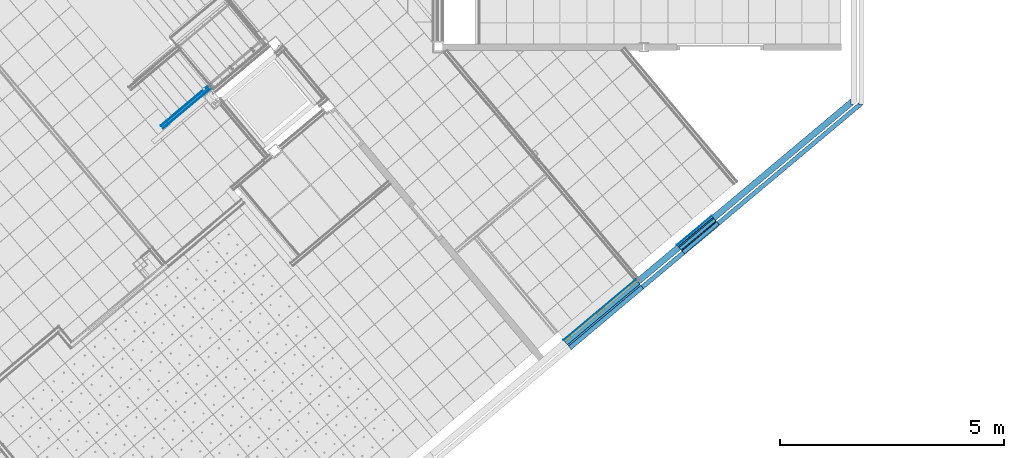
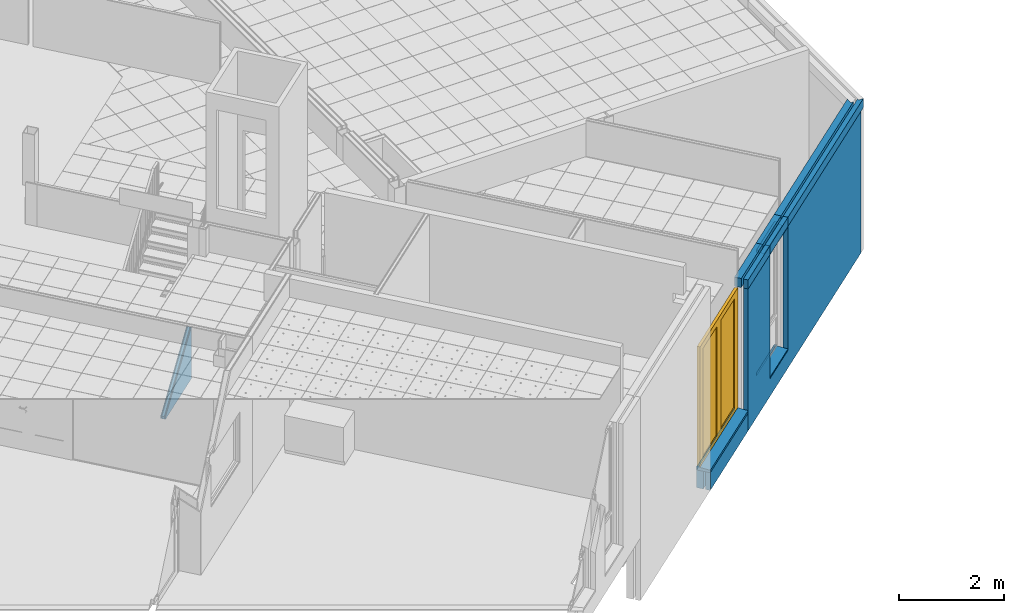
# One storey, part 68 of 338: 23 building element parts, 1 door, 2 openings, 8 elements without a shape of their own.
"""IFC2X3 building model written with IfcOpenShell, lengths in millimetres."""

import ifcopenshell
import ifcopenshell.guid

model = None  # the IFC model being written
_history = None  # IfcOwnerHistory: only IFC2X3 demands one
_inside = {}  # id of a spatial element -> (the spatial element, [elements in it])
_under = {}  # id of a project, library or spatial element -> (it, [spatial elements below it])
_declared = {}  # id of a project -> (the project, [libraries it declares])
_typed = {}  # id of a type object -> (the type object, [elements of that type])
_made_of = {}  # id of a material, layer set ... -> (it, [elements and type objects made of it])


def new_model(schema):
    """Start an empty IFC model of exactly this schema.

    Asked for "IFC4X3", IfcOpenShell would pick the latest addendum, in which some entities
    have other attributes; the version numbers below select the first issue.
    IFC2X3 requires an IfcOwnerHistory on every rooted entity: one is made here for all.
    """
    global model, _history
    if schema == "IFC4X3":
        model = ifcopenshell.file(schema_version=(4, 3, 0, 0))
    else:
        model = ifcopenshell.file(schema=schema)
    _inside.clear()
    _under.clear()
    _declared.clear()
    _typed.clear()
    _made_of.clear()
    _history = None
    if model.schema == "IFC2X3":
        org = make("IfcOrganization", Name="unknown")
        user = make(
            "IfcPersonAndOrganization",
            ThePerson=make("IfcPerson", FamilyName="unknown"),
            TheOrganization=org,
        )
        app = make(
            "IfcApplication",
            ApplicationDeveloper=org,
            Version="unknown",
            ApplicationFullName="unknown",
            ApplicationIdentifier="unknown",
        )
        _history = make(
            "IfcOwnerHistory",
            OwningUser=user,
            OwningApplication=app,
            ChangeAction="ADDED",
            CreationDate=0,
        )
    return model


def make(cls, **values):
    """One entity of the class cls with the attributes given. An attribute that is None is left unset."""
    return model.create_entity(
        cls, **{name: value for name, value in values.items() if value is not None}
    )


def entity(cls, *values):
    """Any entity or typed value of the class cls, its attributes in the order of the schema. None: left unset."""
    e = model.create_entity(cls)
    for i, value in enumerate(values):
        if value is not None:
            e[i] = value
    return e


def rooted(cls, **values):
    """An entity with a GlobalId (a new one), such as an element, a storey or a relation."""
    return make(cls, GlobalId=ifcopenshell.guid.new(), OwnerHistory=_history, **values)


def si_unit(unit_type, name, prefix=None):
    """IfcSIUnit, for example si_unit("LENGTHUNIT", "METRE", prefix="MILLI")."""
    return make("IfcSIUnit", UnitType=unit_type, Prefix=prefix, Name=name)


def converted_unit(unit_type, name, factor, base, dimensions=None, offset=None):
    """IfcConversionBasedUnit, such as the inch: factor (a typed value) times the base unit."""
    return make(
        "IfcConversionBasedUnit"
        if offset is None
        else "IfcConversionBasedUnitWithOffset",
        ConversionOffset=offset,
        Dimensions=None
        if dimensions is None
        else entity("IfcDimensionalExponents", *dimensions),
        UnitType=unit_type,
        Name=name,
        ConversionFactor=make(
            "IfcMeasureWithUnit", ValueComponent=factor, UnitComponent=base
        ),
    )


def derived_unit(unit_type, elements):
    """IfcDerivedUnit: a product of units, each with its exponent."""
    return make(
        "IfcDerivedUnit",
        Elements=[
            make("IfcDerivedUnitElement", Unit=unit, Exponent=power)
            for unit, power in elements
        ],
        UnitType=unit_type,
    )


def money_unit(currency):
    """IfcMonetaryUnit."""
    return make("IfcMonetaryUnit", Currency=currency)


def assignment(units):
    """IfcUnitAssignment: the units of a project."""
    return None if units is None else make("IfcUnitAssignment", Units=units)


def point(xyz):
    """IfcCartesianPoint."""
    return None if xyz is None else make("IfcCartesianPoint", Coordinates=xyz)


def direction(xyz):
    """IfcDirection."""
    return None if xyz is None else make("IfcDirection", DirectionRatios=xyz)


def frame(location, z_axis=None, x_axis=None):
    """IfcAxis2Placement3D, a coordinate frame: its origin and axes. An axis left out is left unset."""
    return make(
        "IfcAxis2Placement3D",
        Location=point(location),
        Axis=direction(z_axis),
        RefDirection=direction(x_axis),
    )


def origin_with_axes():
    """The frame at (0, 0, 0) with the z axis (0, 0, 1) and the x axis (1, 0, 0) written out."""
    return frame((0.0, 0.0, 0.0), z_axis=(0.0, 0.0, 1.0), x_axis=(1.0, 0.0, 0.0))


def place(relative_to, where):
    """IfcLocalPlacement: puts the frame where relative to a parent placement (None: the world)."""
    return make(
        "IfcLocalPlacement", PlacementRelTo=relative_to, RelativePlacement=where
    )


def context(
    kind, dimensions, precision=None, world=None, true_north=None, identifier=None
):
    """IfcGeometricRepresentationContext, for example the 3D "Model" context."""
    return make(
        "IfcGeometricRepresentationContext",
        ContextIdentifier=identifier,
        ContextType=kind,
        CoordinateSpaceDimension=dimensions,
        Precision=precision,
        WorldCoordinateSystem=world,
        TrueNorth=true_north,
    )


def subcontext(parent, identifier, kind, view, scale=None):
    """IfcGeometricRepresentationSubContext, for example "Body" below "Model"."""
    return make(
        "IfcGeometricRepresentationSubContext",
        ContextIdentifier=identifier,
        ContextType=kind,
        ParentContext=parent,
        TargetScale=scale,
        TargetView=view,
    )


def project(units=None, contexts=None):
    """IfcProject with its units and contexts."""
    return rooted(
        "IfcProject",
        Name="project",
        RepresentationContexts=contexts,
        UnitsInContext=assignment(units),
    )


def spatial(cls, under=None, at=None, **own):
    """A site, building, storey or space (cls), placed at a placement, below another one or the project."""
    s = rooted(cls, ObjectPlacement=at, **own)
    if under is not None:
        _under.setdefault(under.id(), (under, []))[1].append(s)
    return s


def faces_of(points, faces, orient=None, outer=None):
    """IfcFace entities. A face is a list of loops; a loop is a list of indices into points, from 0.

    orient and outer hold one flag for each loop. By default every Orientation is true, the
    first loop of a face is its IfcFaceOuterBound and the others are IfcFaceBound.
    """
    made = []
    for i, loops in enumerate(faces):
        bounds = []
        for j, loop in enumerate(loops):
            is_outer = j == 0 if outer is None else outer[i][j]
            bounds.append(
                make(
                    "IfcFaceOuterBound" if is_outer else "IfcFaceBound",
                    Bound=make("IfcPolyLoop", Polygon=[points[k] for k in loop]),
                    Orientation=True if orient is None else orient[i][j],
                )
            )
        made.append(make("IfcFace", Bounds=bounds))
    return made


def open_shell(faces, orient=None, outer=None):
    """The faces of one IfcOpenShell. surface_model builds it on its shared points."""
    return ("IfcOpenShell", faces, orient, outer)


def faceted_brep(points, faces, orient=None, outer=None, voids=None):
    """IfcFacetedBrep: a solid bounded by flat faces; with voids (closed shells), ...WithVoids."""
    shared = [point(p) for p in points]
    hull = make("IfcClosedShell", CfsFaces=faces_of(shared, faces, orient, outer))
    if voids is None:
        return make("IfcFacetedBrep", Outer=hull)
    return make(
        "IfcFacetedBrepWithVoids",
        Outer=hull,
        Voids=[
            make(cls, CfsFaces=faces_of(shared, fs, o, b)) for cls, fs, o, b in voids
        ],
    )


def surface_model(cls, points, shells):
    """IfcFaceBasedSurfaceModel or IfcShellBasedSurfaceModel (cls): surfaces that need not close."""
    shared = [point(p) for p in points]
    made = [make(c, CfsFaces=faces_of(shared, fs, o, b)) for c, fs, o, b in shells]
    if cls == "IfcFaceBasedSurfaceModel":
        return make(cls, FbsmFaces=made)
    return make(cls, SbsmBoundary=made)


def shape(context_of_items, identifier, shape_type, items):
    """IfcShapeRepresentation: the items that make up one representation, for example the "Body"."""
    return make(
        "IfcShapeRepresentation",
        ContextOfItems=context_of_items,
        RepresentationIdentifier=identifier,
        RepresentationType=shape_type,
        Items=items,
    )


def material(Name=None, Category=None):
    """IfcMaterial."""
    return make("IfcMaterial", Name=Name, Category=Category)


def made_of(thing, what):
    """Note that an element or type object is made of a material, layer set ...; save() writes the relation."""
    if what is not None:
        _made_of.setdefault(what.id(), (what, []))[1].append(thing)
    return thing


def type_object(cls, material=None, **own):
    """A type object (cls), such as IfcWallType, which elements share."""
    return made_of(rooted(cls, **own), material)


def element(
    cls,
    number,
    at=None,
    inside=None,
    cuts=None,
    type_object=None,
    material=None,
    context=None,
    identifier="Body",
    shape_type=None,
    held_by="IfcProductDefinitionShape",
    body=None,
    shapes=None,
    **own,
):
    """One element of the class cls, such as IfcWall. Its Tag is "e" and its number.

    at: its placement. inside: the storey or other place that contains it. cuts: it is an
    opening in that element (IfcRelVoidsElement). A single representation is given by context,
    identifier, shape_type and body (its items); several are given by shapes. held_by: the class
    of the entity that holds the representations. save() writes the other relations.
    """
    e = rooted(cls, Tag="e%d" % number, ObjectPlacement=at, **own)
    if body is not None:
        shapes = [shape(context, identifier, shape_type, body)]
    if shapes is not None:
        e.Representation = make(held_by, Representations=shapes)
    if inside is not None:
        _inside.setdefault(inside.id(), (inside, []))[1].append(e)
    if cuts is not None:
        rooted(
            "IfcRelVoidsElement", RelatingBuildingElement=cuts, RelatedOpeningElement=e
        )
    if type_object is not None:
        _typed.setdefault(type_object.id(), (type_object, []))[1].append(e)
    return made_of(e, material)


def fill(opening, filler):
    """IfcRelFillsElement: the door or window that sits in an opening."""
    return rooted(
        "IfcRelFillsElement",
        RelatingOpeningElement=opening,
        RelatedBuildingElement=filler,
    )


def aggregate(whole, parts):
    """IfcRelAggregates: a whole, such as a stair, and the parts it consists of."""
    return rooted("IfcRelAggregates", RelatingObject=whole, RelatedObjects=parts)


def save(model, path):
    """Write the relations noted so far, then the file.

    IfcRelAggregates (storeys below a building ...), IfcRelContainedInSpatialStructure (elements
    in a storey), IfcRelDefinesByType, IfcRelAssociatesMaterial and IfcRelDeclares: one each for
    every whole, place, type object, material and project.
    """
    for whole, parts in _under.values():
        aggregate(whole, parts)
    for where, things in _inside.values():
        rooted(
            "IfcRelContainedInSpatialStructure",
            RelatedElements=things,
            RelatingStructure=where,
        )
    for kind, things in _typed.values():
        rooted("IfcRelDefinesByType", RelatedObjects=things, RelatingType=kind)
    for what, things in _made_of.values():
        rooted("IfcRelAssociatesMaterial", RelatedObjects=things, RelatingMaterial=what)
    for by, libraries in _declared.values():
        rooted("IfcRelDeclares", RelatingContext=by, RelatedDefinitions=libraries)
    model.write(path)


model = new_model("IFC2X3")

# Units and contexts
model_context = context("Model", 3, precision=0.01, world=origin_with_axes(), true_north=direction((0.0, 1.0)))
plan_context = context("Plan", 3, precision=0.01, world=origin_with_axes(), true_north=direction((0.0, 1.0)))
body_context = subcontext(model_context, "Body", "Model", "MODEL_VIEW")
ifc_project = project(units=[si_unit("LENGTHUNIT", "METRE", prefix="MILLI"), si_unit("AREAUNIT", "SQUARE_METRE"), si_unit("VOLUMEUNIT", "CUBIC_METRE"), converted_unit("PLANEANGLEUNIT", "DEGREE", entity("IfcPlaneAngleMeasure", 0.0174532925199), si_unit("PLANEANGLEUNIT", "RADIAN"), dimensions=[0, 0, 0, 0, 0, 0, 0]), money_unit("EUR"), converted_unit("TIMEUNIT", "Year", entity("IfcTimeMeasure", 31556926.0), si_unit("TIMEUNIT", "SECOND"), dimensions=[0, 0, 1, 0, 0, 0, 0]), si_unit("MASSUNIT", "GRAM", prefix="KILO"), si_unit("THERMODYNAMICTEMPERATUREUNIT", "DEGREE_CELSIUS"), si_unit("LUMINOUSINTENSITYUNIT", "LUMEN"), si_unit("ENERGYUNIT", "JOULE", prefix="MEGA"), derived_unit("THERMALCONDUCTANCEUNIT", [(si_unit("POWERUNIT", "WATT"), 1), (si_unit("LENGTHUNIT", "METRE"), -1), (si_unit("THERMODYNAMICTEMPERATUREUNIT", "KELVIN"), -1)]), derived_unit("SPECIFICHEATCAPACITYUNIT", [(si_unit("ENERGYUNIT", "JOULE"), 1), (si_unit("MASSUNIT", "GRAM", prefix="KILO"), -1), (si_unit("THERMODYNAMICTEMPERATUREUNIT", "KELVIN"), -1)]), derived_unit("MASSDENSITYUNIT", [(si_unit("MASSUNIT", "GRAM", prefix="KILO"), 1), (si_unit("VOLUMEUNIT", "CUBIC_METRE"), -1)])], contexts=[model_context, plan_context])

# Site, building, storey
site_placement = place(None, origin_with_axes())
site = spatial("IfcSite", under=ifc_project, at=site_placement, Name="Fortuinstraat Woensdrecht", CompositionType="ELEMENT")
building_placement = place(site_placement, origin_with_axes())
building = spatial("IfcBuilding", under=site, at=building_placement, Name="IKC Fortuna", CompositionType="ELEMENT")
storey_placement = place(building_placement, origin_with_axes())
storey = spatial("IfcBuildingStorey", under=building, at=storey_placement, Name="00 begane grond", CompositionType="ELEMENT", Elevation=0.0)

# Door
door_style = type_object("IfcDoorStyle", Name="D2 25", ConstructionType="NOTDEFINED", OperationType="DOUBLE_DOOR_SINGLE_SWING", ParameterTakesPrecedence=False, Sizeable=False)
wall_2_placement = place(storey_placement, frame((28417.7522518, -4779.64560708, -485.0), z_axis=(0.0, 0.0, 1.0), x_axis=(0.766044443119, 0.642787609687, 0.0)))
opening_2_placement = place(wall_2_placement, frame((1052.9994937, 0.0, 485.0), z_axis=(0.0, 0.0, 1.0), x_axis=(1.0, 0.0, 0.0)))
door_placement = place(opening_2_placement, frame((976.999360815, 0.0, 0.0), z_axis=(0.0, 0.0, 1.0), x_axis=(-1.0, 0.0, 0.0)))
door = element("IfcDoor", 1, at=door_placement, inside=storey, type_object=door_style, Name="31_Deur_A.06a", ObjectType="DOOR", OverallHeight=2786.0, OverallWidth=2090.0, context=body_context, shape_type="SurfaceModel", body=[
    faceted_brep([(-68.0, 72.0, 0.0), (0.0, 72.0, 0.0), (0.0, 10.0, 0.0), (-68.0, 10.0, 0.0), (-68.0, 72.0, 2752.0), (0.0, 72.0, 2752.0), (0.0, 10.0, 2752.0), (-68.0, 10.0, 2752.0)], [[[0, 1, 2, 3]], [[0, 4, 5, 1]], [[1, 5, 6, 2]], [[3, 2, 6, 7]], [[4, 0, 3, 7]], [[5, 4, 7, 6]]]),
    faceted_brep([(2021.99872163, 72.0, 0.0), (2021.99872163, 72.0, 2752.0), (2021.99872163, 10.0, 2752.0), (2021.99872163, 10.0, 0.0), (1953.99872163, 72.0, 0.0), (1953.99872163, 72.0, 2752.0), (1953.99872163, 10.0, 2752.0), (1953.99872163, 10.0, 0.0)], [[[0, 1, 2, 3]], [[0, 4, 5, 1]], [[1, 5, 6, 2]], [[3, 2, 6, 7]], [[4, 0, 3, 7]], [[5, 4, 7, 6]]]),
    faceted_brep([(-68.0, 72.0, 2786.0), (-68.0, 72.0, 2752.0), (-68.0, 10.0, 2752.0), (-68.0, 10.0, 2786.0), (2021.99872163, 72.0, 2786.0), (2021.99872163, 72.0, 2752.0), (1953.99872163, 72.0, 2752.0), (0.0, 72.0, 2752.0), (0.0, 10.0, 2752.0), (1953.99872163, 10.0, 2752.0), (2021.99872163, 10.0, 2752.0), (2021.99872163, 10.0, 2786.0)], [[[0, 1, 2, 3]], [[0, 4, 5, 6, 7, 1]], [[1, 7, 8, 2]], [[3, 2, 8, 9, 10, 11]], [[4, 0, 3, 11]], [[5, 4, 11, 10]], [[6, 5, 10, 9]], [[7, 6, 9, 8]]]),
    faceted_brep([(1953.99872163, 72.0, 113.0), (1953.99872163, 10.0, 113.0), (1850.99872163, 10.0, 113.0), (1850.99872163, 72.0, 113.0), (1953.99872163, 72.0, 2649.0), (1953.99872163, 10.0, 2649.0), (1850.99872163, 10.0, 2649.0), (1850.99872163, 72.0, 2649.0)], [[[0, 1, 2, 3]], [[4, 5, 1, 0]], [[1, 5, 6, 2]], [[3, 2, 6, 7]], [[0, 3, 7, 4]], [[7, 6, 5, 4]]]),
    faceted_brep([(976.999360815, 72.0, 113.0), (976.999360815, 10.0, 113.0), (976.999360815, 10.0, 2649.0), (976.999360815, 72.0, 2649.0), (1079.99936081, 72.0, 113.0), (1079.99936081, 10.0, 113.0), (1079.99936081, 10.0, 2649.0), (1079.99936081, 72.0, 2649.0)], [[[0, 1, 2, 3]], [[4, 5, 1, 0]], [[1, 5, 6, 2]], [[3, 2, 6, 7]], [[0, 3, 7, 4]], [[7, 6, 5, 4]]]),
    faceted_brep([(1953.99872163, 72.0, 10.0), (1953.99872163, 10.0, 10.0), (976.999360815, 10.0, 10.0), (976.999360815, 72.0, 10.0), (1953.99872163, 72.0, 113.0), (1953.99872163, 10.0, 113.0), (1850.99872163, 10.0, 113.0), (1079.99936081, 10.0, 113.0), (976.999360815, 10.0, 113.0), (976.999360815, 72.0, 113.0), (1079.99936081, 72.0, 113.0), (1850.99872163, 72.0, 113.0)], [[[0, 1, 2, 3]], [[4, 5, 1, 0]], [[1, 5, 6, 7, 8, 2]], [[3, 2, 8, 9]], [[0, 3, 9, 10, 11, 4]], [[11, 6, 5, 4]], [[10, 7, 6, 11]], [[9, 8, 7, 10]]]),
    faceted_brep([(1953.99872163, 72.0, 2752.0), (1953.99872163, 10.0, 2752.0), (1953.99872163, 10.0, 2649.0), (1953.99872163, 72.0, 2649.0), (976.999360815, 72.0, 2752.0), (976.999360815, 10.0, 2752.0), (976.999360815, 10.0, 2649.0), (1079.99936081, 10.0, 2649.0), (1850.99872163, 10.0, 2649.0), (1850.99872163, 72.0, 2649.0), (1079.99936081, 72.0, 2649.0), (976.999360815, 72.0, 2649.0)], [[[0, 1, 2, 3]], [[4, 5, 1, 0]], [[1, 5, 6, 7, 8, 2]], [[3, 2, 8, 9]], [[0, 3, 9, 10, 11, 4]], [[11, 6, 5, 4]], [[10, 7, 6, 11]], [[9, 8, 7, 10]]]),
    surface_model("IfcShellBasedSurfaceModel", [(1850.99872163, 47.0, 113.0), (1079.99936081, 47.0, 113.0), (1079.99936081, 47.0, 2649.0), (1850.99872163, 47.0, 2649.0)], [open_shell([[[0, 1, 2, 3]]])]),
    surface_model("IfcShellBasedSurfaceModel", [(1850.99872163, 35.0, 113.0), (1850.99872163, 35.0, 2649.0), (1079.99936081, 35.0, 2649.0), (1079.99936081, 35.0, 113.0)], [open_shell([[[0, 1, 2, 3]]])]),
    faceted_brep([(0.0, 72.0, 113.0), (103.0, 72.0, 113.0), (103.0, 10.0, 113.0), (0.0, 10.0, 113.0), (0.0, 72.0, 2649.0), (103.0, 72.0, 2649.0), (103.0, 10.0, 2649.0), (0.0, 10.0, 2649.0)], [[[0, 1, 2, 3]], [[0, 4, 5, 1]], [[1, 5, 6, 2]], [[3, 2, 6, 7]], [[4, 0, 3, 7]], [[5, 4, 7, 6]]]),
    faceted_brep([(976.999360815, 72.0, 113.0), (976.999360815, 72.0, 2649.0), (976.999360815, 10.0, 2649.0), (976.999360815, 10.0, 113.0), (873.999360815, 72.0, 113.0), (873.999360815, 72.0, 2649.0), (873.999360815, 10.0, 2649.0), (873.999360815, 10.0, 113.0)], [[[0, 1, 2, 3]], [[0, 4, 5, 1]], [[1, 5, 6, 2]], [[3, 2, 6, 7]], [[4, 0, 3, 7]], [[5, 4, 7, 6]]]),
    faceted_brep([(0.0, 72.0, 10.0), (976.999360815, 72.0, 10.0), (976.999360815, 10.0, 10.0), (0.0, 10.0, 10.0), (0.0, 72.0, 113.0), (103.0, 72.0, 113.0), (873.999360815, 72.0, 113.0), (976.999360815, 72.0, 113.0), (976.999360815, 10.0, 113.0), (873.999360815, 10.0, 113.0), (103.0, 10.0, 113.0), (0.0, 10.0, 113.0)], [[[0, 1, 2, 3]], [[0, 4, 5, 6, 7, 1]], [[1, 7, 8, 2]], [[3, 2, 8, 9, 10, 11]], [[4, 0, 3, 11]], [[5, 4, 11, 10]], [[6, 5, 10, 9]], [[7, 6, 9, 8]]]),
    faceted_brep([(0.0, 72.0, 2752.0), (0.0, 72.0, 2649.0), (0.0, 10.0, 2649.0), (0.0, 10.0, 2752.0), (976.999360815, 72.0, 2752.0), (976.999360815, 72.0, 2649.0), (873.999360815, 72.0, 2649.0), (103.0, 72.0, 2649.0), (103.0, 10.0, 2649.0), (873.999360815, 10.0, 2649.0), (976.999360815, 10.0, 2649.0), (976.999360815, 10.0, 2752.0)], [[[0, 1, 2, 3]], [[0, 4, 5, 6, 7, 1]], [[1, 7, 8, 2]], [[3, 2, 8, 9, 10, 11]], [[4, 0, 3, 11]], [[5, 4, 11, 10]], [[6, 5, 10, 9]], [[7, 6, 9, 8]]]),
    surface_model("IfcShellBasedSurfaceModel", [(103.0, 47.0, 113.0), (103.0, 47.0, 2649.0), (873.999360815, 47.0, 2649.0), (873.999360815, 47.0, 113.0)], [open_shell([[[0, 1, 2, 3]]])]),
    surface_model("IfcShellBasedSurfaceModel", [(103.0, 35.0, 113.0), (873.999360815, 35.0, 113.0), (873.999360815, 35.0, 2649.0), (103.0, 35.0, 2649.0)], [open_shell([[[0, 1, 2, 3]]])]),
])

# Wall, opening, building element part
wall_type_1 = type_object("IfcWallType", Name="21 MW accent 280", PredefinedType="NOTDEFINED")
wall_1_placement = place(storey_placement, frame((34833.4270571, 603.744755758, -485.0), z_axis=(0.0, 0.0, 1.0), x_axis=(-0.766044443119, -0.642787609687, 0.0)))
wall_1 = element("IfcWall", 2, at=wall_1_placement, inside=storey, type_object=wall_type_1, Name="21_Wand_Baksteen")
opening_1_placement = place(wall_1_placement, frame((4564.06980225, 0.0, 469.0), z_axis=(0.0, 0.0, 1.0), x_axis=(1.0, 0.0, 0.0)))
element("IfcOpeningElement", 3, at=opening_1_placement, cuts=wall_1, Name="31_Raam_A.03", context=body_context, shape_type="Brep", body=[
    faceted_brep([(-505.0, 560.0, 2816.0), (-505.0, 560.0, -59.0), (-505.0, 72.0, -59.0), (-505.0, 72.0, 2816.0), (505.0, 560.0, 2816.0), (505.0, 560.0, -59.0), (505.0, 72.0, -59.0), (505.0, 72.0, 2816.0)], [[[0, 1, 2, 3]], [[0, 4, 5, 1]], [[1, 5, 6, 2]], [[3, 2, 6, 7]], [[4, 0, 3, 7]], [[5, 4, 7, 6]]]),
    faceted_brep([(-505.0, -280.0, -59.0), (-505.0, -280.0, 2816.0), (-505.0, 72.0, 2816.0), (-505.0, 72.0, -59.0), (505.0, -280.0, -59.0), (505.0, -280.0, 2816.0), (505.0, 72.0, 2816.0), (505.0, 72.0, -59.0)], [[[0, 1, 2, 3]], [[0, 4, 5, 1]], [[1, 5, 6, 2]], [[3, 2, 6, 7]], [[4, 0, 3, 7]], [[5, 4, 7, 6]]]),
])
ifc_material_1 = material(Name="Steen - Baksteen Accent")
building_element_part_1_placement = place(wall_1_placement, origin_with_axes())
building_element_part_1 = element("IfcBuildingElementPart", 4, at=building_element_part_1_placement, material=ifc_material_1, Name="Steen - Baksteen Accent", context=body_context, shape_type="Brep", body=[
    faceted_brep([(4059.06980225, 262.934515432, 3285.0), (4059.06980225, 280.0, 3285.0), (-0.0254153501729, 280.0, 3285.0), (-83.9353784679, 180.0, 3285.0), (3937.03288025, 180.0, 3285.0), (3937.03288025, 190.934515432, 3285.0), (3937.03288025, 262.934515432, 3285.0), (4059.06980225, 280.0, 410.0), (4059.06980225, 267.177156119, 3283.24264069), (4059.06980225, 268.934515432, 3279.0), (4059.06980225, 268.934515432, 3275.0), (4059.06980225, 180.0, 3275.0), (4059.06980225, 180.0, 410.0), (5069.06980225, 280.0, 410.0), (5069.06980225, 280.0, 3285.0), (6269.06966936, 280.0, 3285.0), (6269.06966936, 280.0, 0.0), (-0.0254153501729, 280.0, 0.0), (-83.9353784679, 180.0, 0.0), (3937.03288025, 180.0, 3275.0), (6269.06966936, 180.0, 0.0), (6269.06966936, 180.0, 3285.0), (5223.03288025, 180.0, 3285.0), (5223.03288025, 180.0, 3275.0), (5069.06980225, 180.0, 3275.0), (5069.06980225, 180.0, 410.0), (3937.03288025, 268.934515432, 3275.0), (3937.03288025, 268.934515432, 3279.0), (3937.03288025, 267.177156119, 3283.24264069), (5069.06980225, 262.934515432, 3285.0), (5069.06980225, 268.934515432, 3275.0), (5069.06980225, 268.934515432, 3279.0), (5069.06980225, 267.177156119, 3283.24264069), (5223.03288025, 262.934515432, 3285.0), (5223.03288025, 190.934515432, 3285.0), (5223.03288025, 268.934515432, 3275.0), (5223.03288025, 267.177156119, 3283.24264069), (5223.03288025, 268.934515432, 3279.0)], [[[0, 1, 2, 3, 4, 5, 6]], [[7, 1, 0, 8, 9, 10, 11, 12]], [[13, 14, 15, 16, 17, 2, 1, 7]], [[18, 3, 2, 17]], [[12, 11, 19, 4, 3, 18, 20, 21, 22, 23, 24, 25]], [[26, 27, 28, 6, 5, 4, 19]], [[8, 0, 6, 28]], [[9, 8, 28, 27]], [[10, 9, 27, 26]], [[11, 10, 26, 19]], [[13, 7, 12, 25]], [[29, 14, 13, 25, 24, 30, 31, 32]], [[14, 29, 33, 34, 22, 21, 15]], [[15, 21, 20, 16]], [[17, 16, 20, 18]], [[35, 23, 22, 34, 33, 36, 37]], [[30, 24, 23, 35]], [[31, 30, 35, 37]], [[32, 31, 37, 36]], [[29, 32, 36, 33]]]),
])
aggregate(wall_1, [building_element_part_1])

# Wall, opening
wall_2 = element("IfcWall", 5, at=wall_2_placement, inside=storey, type_object=wall_type_1, Name="21_Wand_Baksteen")
opening_2 = element("IfcOpeningElement", 6, at=opening_2_placement, cuts=wall_2, Name="31_Deur_A.06a", context=body_context, shape_type="Brep", body=[
    faceted_brep([(-1052.99936081, -560.0, -75.0), (-1052.99936081, -560.0, 2786.0), (-1052.99936081, -72.0, 2786.0), (-1052.99936081, -72.0, -75.0), (1052.99936081, -560.0, -75.0), (1052.99936081, -560.0, 2786.0), (1052.99936081, -72.0, 2786.0), (1052.99936081, -72.0, -75.0)], [[[0, 1, 2, 3]], [[0, 4, 5, 1]], [[1, 5, 6, 2]], [[3, 2, 6, 7]], [[4, 0, 3, 7]], [[5, 4, 7, 6]]]),
    faceted_brep([(-1052.99936081, 280.0, 2786.0), (-1052.99936081, 280.0, -75.0), (-1052.99936081, -72.0, -75.0), (-1052.99936081, -72.0, 2786.0), (1052.99936081, 280.0, 2786.0), (1052.99936081, 280.0, -75.0), (1052.99936081, -72.0, -75.0), (1052.99936081, -72.0, 2786.0)], [[[0, 1, 2, 3]], [[0, 4, 5, 1]], [[1, 5, 6, 2]], [[3, 2, 6, 7]], [[4, 0, 3, 7]], [[5, 4, 7, 6]]]),
])

fill(opening_2, door)

# Building element part
ifc_material_2 = material(Name="ALG - ISOLATIE")
building_element_part_2_placement = place(wall_2_placement, origin_with_axes())
building_element_part_2 = element("IfcBuildingElementPart", 7, at=building_element_part_2_placement, material=ifc_material_2, Name="ALG - ISOLATIE", context=body_context, shape_type="Brep", body=[
    faceted_brep([(2105.99885452, 0.0, 410.0), (2105.99885452, -72.0, 410.0), (2105.99885452, -140.0, 410.0), (2105.99898453, -140.0, 0.0), (2105.99898453, 0.0, 0.0), (0.000132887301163, -72.0, 410.0), (0.00013288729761, 0.0, 410.0), (0.000132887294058, -140.0, 410.0), (0.0, -140.0, 0.0), (0.0, 0.0, 0.0)], [[[0, 1, 2, 3, 4]], [[5, 1, 0, 6]], [[1, 5, 7, 2]], [[7, 8, 3, 2]], [[3, 8, 9, 4]], [[6, 0, 4, 9]], [[5, 6, 9, 8, 7]]]),
])

building_element_part_3_placement = place(wall_2_placement, origin_with_axes())
building_element_part_3 = element("IfcBuildingElementPart", 8, at=building_element_part_3_placement, material=ifc_material_1, Name="Steen - Baksteen Accent", context=body_context, shape_type="Brep", body=[
    faceted_brep([(2105.99885452, -180.0, 410.0), (2105.99885452, -280.0, 410.0), (2105.99898453, -280.0, 0.0), (2105.99898453, -180.0, 0.0), (0.000132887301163, -280.0, 410.0), (0.00013288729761, -180.0, 410.0), (0.0, -280.0, 0.0), (0.0, -180.0, 0.0)], [[[0, 1, 2, 3]], [[4, 1, 0, 5]], [[1, 4, 6, 2]], [[3, 2, 6, 7]], [[5, 0, 3, 7]], [[4, 5, 7, 6]]]),
])

aggregate(wall_2, [building_element_part_2, building_element_part_3])

# Covering, building element parts
covering_type_1 = type_object("IfcCoveringType", Name="41 Latei MW rollaag 280 x 227", PredefinedType="NOTDEFINED")
covering_1_placement = place(storey_placement, frame((31813.9894562, -2112.62124206, 2800.0), z_axis=(0.0, 0.0, 1.0), x_axis=(-0.766044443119, -0.642787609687, 0.0)))
covering_1 = element("IfcCovering", 9, at=covering_1_placement, inside=storey, type_object=covering_type_1, Name="41_Afwerking_Latei + rollaag", PredefinedType="NOTDEFINED")
ifc_material_3 = material(Name="Metaal - Staal C")
building_element_part_4_placement = place(covering_1_placement, origin_with_axes())
building_element_part_4 = element("IfcBuildingElementPart", 10, at=building_element_part_4_placement, material=ifc_material_3, Name="Metaal - Staal C", context=body_context, shape_type="Brep", body=[
    faceted_brep([(1010.0, 28.9345153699, 113.654953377), (0.0, 28.9345153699, 113.654953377), (0.0, 20.8284271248, 121.828427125), (1010.0, 20.8284271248, 121.828427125), (0.0, 28.9345153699, 108.06548463), (1010.0, 28.9345153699, 108.06548463), (0.0, 18.0000000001, 119.0), (1010.0, 18.0000000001, 119.0)], [[[0, 1, 2, 3]], [[4, 1, 0, 5]], [[1, 4, 6, 2]], [[6, 7, 3, 2]], [[5, 0, 3, 7]], [[4, 5, 7, 6]]]),
    faceted_brep([(0.0, 128.93451537, -6.0), (0.0, 127.428220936, -2.3634835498), (0.0, 136.0, -4.07767729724), (0.0, 135.215535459, -8.0), (0.0, 128.93451537, -6.74379598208), (1010.0, 128.93451537, -6.0), (1010.0, 127.428220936, -2.3634835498), (1010.0, 136.0, -4.07767729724), (1010.0, 135.215535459, -8.0), (1010.0, 128.93451537, -6.74379598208)], [[[0, 1, 2, 3, 4]], [[1, 0, 5, 6]], [[1, 6, 7, 2]], [[2, 7, 8, 3]], [[9, 4, 3, 8]], [[0, 4, 9, 5]], [[5, 9, 8, 7, 6]]]),
])
ifc_material_4 = material(Name="Steen - Baksteen Accent Rollaag")
building_element_part_5_placement = place(covering_1_placement, origin_with_axes())
building_element_part_5 = element("IfcBuildingElementPart", 11, at=building_element_part_5_placement, material=ifc_material_4, Name="Steen - Baksteen Accent Rollaag", context=body_context, shape_type="Brep", body=[
    faceted_brep([(1010.0, 50.9345153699, 0.0), (0.0, 50.9345153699, 0.0), (0.0, 115.609685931, 0.0), (1010.0, 115.609685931, 0.0), (0.0, 42.4492339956, 3.51471862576), (1010.0, 42.4492339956, 3.51471862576), (0.0, 40.0, 9.42769255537), (0.0, 40.0, 210.0), (0.0, 140.0, 210.0), (0.0, 140.0, 0.0), (1010.0, 140.0, 0.0), (1010.0, 140.0, 210.0), (1010.0, 40.0, 210.0), (1010.0, 40.0, 9.42769255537)], [[[0, 1, 2, 3]], [[4, 1, 0, 5]], [[4, 6, 7, 8, 9, 2, 1]], [[9, 10, 3, 2]], [[5, 0, 3, 10, 11, 12, 13]], [[6, 4, 5, 13]], [[6, 13, 12, 7]], [[7, 12, 11, 8]], [[8, 11, 10, 9]]]),
])
ifc_material_5 = material(Name="Metaal - Staal AFW")
building_element_part_6_placement = place(covering_1_placement, origin_with_axes())
building_element_part_6 = element("IfcBuildingElementPart", 12, at=building_element_part_6_placement, material=ifc_material_5, Name="Metaal - Staal AFW", context=body_context, shape_type="Brep", body=[
    faceted_brep([(1010.0, 28.9345153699, 4.0), (0.0, 28.9345153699, 4.0), (0.0, -58.0, 4.0), (1010.0, -58.0, 4.0), (0.0, 28.9345153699, 0.0), (1010.0, 28.9345153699, 0.0), (0.0, -58.0, 0.0), (1010.0, -58.0, 0.0)], [[[0, 1, 2, 3]], [[4, 1, 0, 5]], [[1, 4, 6, 2]], [[6, 7, 3, 2]], [[5, 0, 3, 7]], [[4, 5, 7, 6]]]),
])
building_element_part_7_placement = place(covering_1_placement, origin_with_axes())
building_element_part_7 = element("IfcBuildingElementPart", 13, at=building_element_part_7_placement, material=ifc_material_2, Name="ALG - ISOLATIE", context=body_context, shape_type="Brep", body=[
    faceted_brep([(0.0, -140.0, 53.0), (1010.0, -140.0, 53.0), (1010.0, -140.0, 210.0), (0.0, -140.0, 210.0), (0.0, -83.9999988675, 53.0000013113), (1010.0, -83.9999988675, 53.0000013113), (1010.0, 0.0, 53.0), (1010.0, 0.0, 210.0), (0.0, 0.0, 210.0), (0.0, 0.0, 53.0)], [[[0, 1, 2, 3]], [[4, 5, 1, 0]], [[2, 1, 5, 6, 7]], [[3, 2, 7, 8]], [[4, 0, 3, 8, 9]], [[9, 6, 5, 4]], [[8, 7, 6, 9]]]),
])
ifc_material_6 = material(Name="Hout AFW")
building_element_part_8_placement = place(covering_1_placement, origin_with_axes())
building_element_part_8 = element("IfcBuildingElementPart", 14, at=building_element_part_8_placement, material=ifc_material_6, Name="Hout AFW", context=body_context, shape_type="Brep", body=[
    faceted_brep([(0.0, -127.999998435, 53.0000013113), (1010.0, -127.999998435, 53.0000013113), (1010.0, -83.9999988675, 53.0000013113), (0.0, -83.9999988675, 53.0000013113), (0.0, -127.999998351, -1.28576260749e-07), (1010.0, -127.999998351, -1.28576260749e-07), (1010.0, -127.999998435, -17.0), (1010.0, -83.9999988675, -17.0), (0.0, -83.9999988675, -17.0), (0.0, -127.999998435, -17.0)], [[[0, 1, 2, 3]], [[4, 5, 1, 0]], [[2, 1, 5, 6, 7]], [[3, 2, 7, 8]], [[4, 0, 3, 8, 9]], [[9, 6, 5, 4]], [[8, 7, 6, 9]]]),
])
ifc_material_7 = material(Name="Isolatie - PUR gespoten")
building_element_part_9_placement = place(covering_1_placement, origin_with_axes())
building_element_part_9 = element("IfcBuildingElementPart", 15, at=building_element_part_9_placement, material=ifc_material_7, Name="Isolatie - PUR gespoten", context=body_context, shape_type="Brep", body=[
    faceted_brep([(0.0, -139.999999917, 53.0000002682), (1010.0, -139.999999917, 53.0000002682), (1010.0, -127.999998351, 53.0000013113), (0.0, -127.999998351, 53.0000013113), (0.0, -139.999999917, -1.28576260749e-07), (1010.0, -139.999999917, -1.28576260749e-07), (1010.0, -127.999998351, -1.28576260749e-07), (0.0, -127.999998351, -1.28576260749e-07)], [[[0, 1, 2, 3]], [[4, 5, 1, 0]], [[2, 1, 5, 6]], [[3, 2, 6, 7]], [[4, 0, 3, 7]], [[7, 6, 5, 4]]]),
])
aggregate(covering_1, [building_element_part_4, building_element_part_5, building_element_part_6, building_element_part_7, building_element_part_8, building_element_part_9])

covering_type_2 = type_object("IfcCoveringType", Name="41 Rollaag 280 x 210", PredefinedType="NOTDEFINED")
covering_2_placement = place(storey_placement, frame((35023.4367918, 580.424833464, 2800.0), z_axis=(0.0, 0.0, 1.0), x_axis=(-0.766044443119, -0.642787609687, 0.0)))
covering_2 = element("IfcCovering", 16, at=covering_2_placement, inside=storey, type_object=covering_type_2, Name="41_Afwerking_Rollaag", PredefinedType="NOTDEFINED")
building_element_part_10_placement = place(covering_2_placement, origin_with_axes())
building_element_part_10 = element("IfcBuildingElementPart", 17, at=building_element_part_10_placement, material=ifc_material_4, Name="Steen - Baksteen Accent Rollaag", context=body_context, shape_type="Brep", body=[
    faceted_brep([(4067.59902453, 50.9345153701, 0.0), (4067.59902453, 40.0, 0.0), (46.6307567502, 40.0, 0.0), (76.6044389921, 75.7212434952, 0.0), (-5.31976596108e-06, 140.000004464, 0.0), (4189.63594653, 140.0, 0.0), (4189.63594653, 50.9345153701, 0.0), (4067.59902453, 42.4492339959, 3.51471862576), (4067.59902453, 40.0, 9.42769255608), (4189.63594653, 40.0, 9.42769255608), (4189.63594653, 40.0, 210.0), (46.6307567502, 40.0, 210.0), (76.6044389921, 75.7212434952, 210.0), (-5.31976596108e-06, 140.000004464, 210.0), (4189.63594653, 140.0, 210.0), (4189.63594653, 42.4492339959, 3.51471862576)], [[[0, 1, 2, 3, 4, 5, 6]], [[1, 0, 7, 8]], [[8, 9, 10, 11, 2, 1]], [[3, 2, 11, 12]], [[3, 12, 13, 4]], [[5, 4, 13, 14]], [[15, 6, 5, 14, 10, 9]], [[0, 6, 15, 7]], [[9, 8, 7, 15]], [[13, 12, 11, 10, 14]]]),
])
building_element_part_11_placement = place(covering_2_placement, origin_with_axes())
building_element_part_11 = element("IfcBuildingElementPart", 18, at=building_element_part_11_placement, material=ifc_material_2, Name="ALG - ISOLATIE", context=body_context, shape_type="Brep", body=[
    faceted_brep([(4189.63594653, 0.0, 0.0), (166.845502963, 0.0, 0.0), (166.845502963, 0.0, 210.0), (4189.63594653, 0.0, 210.0), (130.566135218, -140.0, 0.0), (214.492438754, -39.9805262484, 0.0), (4189.63594653, -140.0, 0.0), (214.492438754, -39.9805262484, 210.0), (130.566135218, -140.0, 210.0), (4189.63594653, -140.0, 210.0)], [[[0, 1, 2, 3]], [[4, 5, 1, 0, 6]], [[5, 7, 2, 1]], [[2, 7, 8, 9, 3]], [[9, 6, 0, 3]], [[5, 4, 8, 7]], [[9, 8, 4, 6]]]),
])
aggregate(covering_2, [building_element_part_10, building_element_part_11])

covering_3_placement = place(storey_placement, frame((31040.2845687, -2761.83672785, 2800.0), z_axis=(0.0, 0.0, 1.0), x_axis=(-0.766044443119, -0.642787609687, 0.0)))
covering_3 = element("IfcCovering", 19, at=covering_3_placement, inside=storey, type_object=covering_type_2, Name="41_Afwerking_Rollaag", PredefinedType="NOTDEFINED")
building_element_part_12_placement = place(covering_3_placement, origin_with_axes())
building_element_part_12 = element("IfcBuildingElementPart", 20, at=building_element_part_12_placement, material=ifc_material_4, Name="Steen - Baksteen Accent Rollaag", context=body_context, shape_type="Brep", body=[
    faceted_brep([(153.963078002, 40.0, 0.0), (153.963078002, 50.9345153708, 0.0), (0.0, 50.9345153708, 0.0), (0.0, 140.0, 0.0), (1200.0, 140.0, 0.0), (1200.0, 40.0, 0.0), (153.963078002, 40.0, 9.42769255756), (153.963078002, 42.4492339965, 3.51471862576), (0.0, 42.4492339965, 3.51471862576), (0.0, 40.0, 9.42769255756), (0.0, 40.0, 210.0), (0.0, 140.0, 210.0), (1200.0, 140.0, 210.0), (1200.0, 40.0, 210.0)], [[[0, 1, 2, 3, 4, 5]], [[1, 0, 6, 7]], [[8, 2, 1, 7]], [[8, 9, 10, 11, 3, 2]], [[11, 12, 4, 3]], [[13, 5, 4, 12]], [[6, 0, 5, 13, 10, 9]], [[9, 8, 7, 6]], [[10, 13, 12, 11]]]),
])
building_element_part_13_placement = place(covering_3_placement, origin_with_axes())
building_element_part_13 = element("IfcBuildingElementPart", 21, at=building_element_part_13_placement, material=ifc_material_2, Name="ALG - ISOLATIE", context=body_context, shape_type="Brep", body=[
    faceted_brep([(0.0, 0.0, 0.0), (1200.0, 0.0, 0.0), (1200.0, -140.0, 0.0), (0.0, -140.0, 0.0), (0.0, 0.0, 210.0), (1200.0, 0.0, 210.0), (1200.0, -140.0, 210.0), (0.0, -140.0, 210.0)], [[[0, 1, 2, 3]], [[4, 5, 1, 0]], [[2, 1, 5, 6]], [[3, 2, 6, 7]], [[4, 0, 3, 7]], [[7, 6, 5, 4]]]),
])
aggregate(covering_3, [building_element_part_12, building_element_part_13])

covering_type_3 = type_object("IfcCoveringType", Name="41 dorpel d bu 280 x 95", PredefinedType="NOTDEFINED")
covering_4_placement = place(storey_placement, frame((28507.7425162, -4886.89183036, -2.5), z_axis=(0.0, 0.0, 1.0), x_axis=(0.76604443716, 0.642787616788, 0.0)))
covering_4 = element("IfcCovering", 22, at=covering_4_placement, inside=storey, type_object=covering_type_3, Name="41_Afwerking_Dorpel", PredefinedType="NOTDEFINED")
building_element_part_14_placement = place(covering_4_placement, origin_with_axes())
building_element_part_14 = element("IfcBuildingElementPart", 23, at=building_element_part_14_placement, material=ifc_material_7, Name="Isolatie - PUR gespoten", context=body_context, shape_type="Brep", body=[
    faceted_brep([(2105.9989874, 140.0, -72.5), (2105.9989874, 129.999999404, -72.5), (0.0, 129.999999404, -72.5), (0.0, 140.0, -72.5), (2105.9989874, 140.0, 2.49999821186), (2105.9989874, 129.999999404, 2.49999821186), (0.0, 129.999999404, 2.49999821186), (0.0, 140.0, 2.49999821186)], [[[0, 1, 2, 3]], [[0, 4, 5, 1]], [[1, 5, 6, 2]], [[3, 2, 6, 7]], [[4, 0, 3, 7]], [[5, 4, 7, 6]]]),
])
ifc_material_8 = material(Name="Steen - Kunststeen")
building_element_part_15_placement = place(covering_4_placement, origin_with_axes())
building_element_part_15 = element("IfcBuildingElementPart", 24, at=building_element_part_15_placement, material=ifc_material_8, Name="Steen - Kunststeen", context=body_context, shape_type="Brep", body=[
    faceted_brep([(2105.9989874, 76.0, 3.2274112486), (2105.9989874, 76.0, 22.5), (0.0, 76.0, 22.5), (0.0, 76.0, 3.2274112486), (2105.9989874, -140.0, -16.4126924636), (2105.9989874, -140.0, -72.5), (2105.9989874, 130.0, -72.5), (2105.9989874, 129.999999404, 2.49999821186), (2105.9989874, 130.0, 22.5), (0.0, 130.0, 22.5), (0.0, 129.999999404, 2.49999821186), (0.0, 130.0, -72.5), (0.0, -140.0, -72.5), (0.0, -140.0, -16.4126924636)], [[[0, 1, 2, 3]], [[0, 4, 5, 6, 7, 8, 1]], [[1, 8, 9, 2]], [[3, 2, 9, 10, 11, 12, 13]], [[4, 0, 3, 13]], [[5, 4, 13, 12]], [[6, 5, 12, 11]], [[7, 6, 11, 10]], [[8, 7, 10, 9]]]),
])
aggregate(covering_4, [building_element_part_14, building_element_part_15])

covering_type_4 = type_object("IfcCoveringType", Name="41 dorpel aan peil 280 x 75", PredefinedType="NOTDEFINED")
covering_5_placement = place(storey_placement, frame((31040.2845661, -2761.83672964, -2.5), z_axis=(0.0, 0.0, 1.0), x_axis=(0.76604443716, 0.642787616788, 0.0)))
covering_5 = element("IfcCovering", 25, at=covering_5_placement, inside=storey, type_object=covering_type_4, Name="41_Afwerking_Dorpel", PredefinedType="NOTDEFINED")
building_element_part_16_placement = place(covering_5_placement, origin_with_axes())
building_element_part_16 = element("IfcBuildingElementPart", 26, at=building_element_part_16_placement, material=ifc_material_7, Name="Isolatie - PUR gespoten", context=body_context, shape_type="Brep", body=[
    faceted_brep([(1010.00000154, 129.999999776, 2.49999888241), (1010.00000154, 139.999999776, 2.5), (0.0, 139.999999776, 2.5), (0.0, 129.999999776, 2.49999888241), (1010.00000154, 129.999999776, -72.5), (1010.00000154, 139.999999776, -72.5), (0.0, 139.999999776, -72.5), (0.0, 129.999999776, -72.5)], [[[0, 1, 2, 3]], [[0, 4, 5, 1]], [[1, 5, 6, 2]], [[3, 2, 6, 7]], [[4, 0, 3, 7]], [[5, 4, 7, 6]]]),
])
building_element_part_17_placement = place(covering_5_placement, origin_with_axes())
building_element_part_17 = element("IfcBuildingElementPart", 27, at=building_element_part_17_placement, material=ifc_material_6, Name="Hout AFW", context=body_context, shape_type="Brep", body=[
    faceted_brep([(1010.00000154, 130.0, 2.49999865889), (1010.00000154, 130.0, -72.5), (0.0, 130.0, -72.5), (0.0, 130.0, 2.49999865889), (1010.00000154, 92.0000008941, 2.49999865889), (1010.00000154, 92.0000008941, -72.5), (0.0, 92.0000008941, -72.5), (0.0, 92.0000008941, 2.49999865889)], [[[0, 1, 2, 3]], [[0, 4, 5, 1]], [[1, 5, 6, 2]], [[3, 2, 6, 7]], [[4, 0, 3, 7]], [[5, 4, 7, 6]]]),
])
building_element_part_18_placement = place(covering_5_placement, origin_with_axes())
building_element_part_18 = element("IfcBuildingElementPart", 28, at=building_element_part_18_placement, material=ifc_material_8, Name="Steen - Kunststeen", context=body_context, shape_type="Brep", body=[
    faceted_brep([(1010.00000154, 82.0, -19.5865456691), (1010.00000154, 82.0, 2.5), (0.0, 82.0, 2.5), (0.0, 82.0, -19.5865456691), (1010.00000154, -140.0, -39.7722078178), (1010.00000154, -140.0, -72.5), (1010.00000154, 92.0, -72.5), (1010.00000154, 92.0, 2.5), (0.0, 92.0, 2.5), (0.0, 92.0, -72.5), (0.0, -140.0, -72.5), (0.0, -140.0, -39.7722078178)], [[[0, 1, 2, 3]], [[0, 4, 5, 6, 7, 1]], [[1, 7, 8, 2]], [[3, 2, 8, 9, 10, 11]], [[4, 0, 3, 11]], [[5, 4, 11, 10]], [[6, 5, 10, 9]], [[7, 6, 9, 8]]]),
])
aggregate(covering_5, [building_element_part_16, building_element_part_17, building_element_part_18])

# Wall, building element parts
wall_type_2 = type_object("IfcWallType", Name="MS100 2.50.2A 100", PredefinedType="NOTDEFINED")
wall_3_placement = place(storey_placement, frame((19494.1539872, -65.8216426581, 1360.0), z_axis=(0.0, 0.0, 1.0), x_axis=(0.766044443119, 0.642787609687, 0.0)))
wall_3 = element("IfcWall", 29, at=wall_3_placement, inside=storey, type_object=wall_type_2, Name="22_Wand_Binnenwand")
ifc_material_9 = material(Name="Gipsplaat")
building_element_part_19_placement = place(wall_3_placement, origin_with_axes())
building_element_part_19 = element("IfcBuildingElementPart", 30, at=building_element_part_19_placement, material=ifc_material_9, Name="Gipsplaat", context=body_context, shape_type="Brep", body=[
    faceted_brep([(1433.92843167, 100.0, 1195.56444123), (1433.92843167, 87.5, 1195.56444123), (1433.92843167, 87.5, 0.0), (1433.92843167, 100.0, 0.0), (160.970417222, 87.5, 187.476572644), (160.970417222, 100.0, 187.476572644), (0.0, 87.5, 60.0), (0.0, 87.5, 0.0), (0.0, 100.0, 0.0), (0.0, 100.0, 60.0)], [[[0, 1, 2, 3]], [[4, 1, 0, 5]], [[4, 6, 7, 2, 1]], [[8, 3, 2, 7]], [[5, 0, 3, 8, 9]], [[6, 4, 5, 9]], [[6, 9, 8, 7]]]),
])
building_element_part_20_placement = place(wall_3_placement, origin_with_axes())
building_element_part_20 = element("IfcBuildingElementPart", 31, at=building_element_part_20_placement, material=ifc_material_9, Name="Gipsplaat", context=body_context, shape_type="Brep", body=[
    faceted_brep([(1433.92843167, 87.5, 1195.56444123), (1433.92843167, 75.0, 1195.56444123), (1433.92843167, 75.0, 0.0), (1433.92843167, 87.5, 0.0), (160.970417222, 75.0, 187.476572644), (160.970417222, 87.5, 187.476572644), (0.0, 75.0, 60.0), (0.0, 75.0, 0.0), (0.0, 87.5, 0.0), (0.0, 87.5, 60.0)], [[[0, 1, 2, 3]], [[4, 1, 0, 5]], [[4, 6, 7, 2, 1]], [[8, 3, 2, 7]], [[5, 0, 3, 8, 9]], [[6, 4, 5, 9]], [[6, 9, 8, 7]]]),
])
ifc_material_10 = material(Name="Isolatie - Steenwol LSW")
building_element_part_21_placement = place(wall_3_placement, origin_with_axes())
building_element_part_21 = element("IfcBuildingElementPart", 32, at=building_element_part_21_placement, material=ifc_material_10, Name="Isolatie - Steenwol LSW", context=body_context, shape_type="Brep", body=[
    faceted_brep([(1433.92843167, 75.0, 1195.56444123), (1433.92843167, 25.0, 1195.56444123), (1433.92843167, 25.0, 0.0), (1433.92843167, 75.0, 0.0), (160.970417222, 25.0, 187.476572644), (160.970417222, 75.0, 187.476572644), (0.0, 25.0, 60.0), (0.0, 25.0, 0.0), (0.0, 75.0, 0.0), (0.0, 75.0, 60.0)], [[[0, 1, 2, 3]], [[4, 1, 0, 5]], [[4, 6, 7, 2, 1]], [[8, 3, 2, 7]], [[5, 0, 3, 8, 9]], [[6, 4, 5, 9]], [[6, 9, 8, 7]]]),
])
building_element_part_22_placement = place(wall_3_placement, origin_with_axes())
building_element_part_22 = element("IfcBuildingElementPart", 33, at=building_element_part_22_placement, material=ifc_material_9, Name="Gipsplaat", context=body_context, shape_type="Brep", body=[
    faceted_brep([(1433.92843167, 25.0, 1195.56444123), (1433.92843167, 12.5, 1195.56444123), (1433.92843167, 12.5, 0.0), (1433.92843167, 25.0, 0.0), (160.970417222, 12.5, 187.476572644), (160.970417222, 25.0, 187.476572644), (0.0, 12.5, 60.0), (0.0, 12.5, 0.0), (0.0, 25.0, 0.0), (0.0, 25.0, 60.0)], [[[0, 1, 2, 3]], [[4, 1, 0, 5]], [[4, 6, 7, 2, 1]], [[8, 3, 2, 7]], [[5, 0, 3, 8, 9]], [[6, 4, 5, 9]], [[6, 9, 8, 7]]]),
])
building_element_part_23_placement = place(wall_3_placement, origin_with_axes())
building_element_part_23 = element("IfcBuildingElementPart", 34, at=building_element_part_23_placement, material=ifc_material_9, Name="Gipsplaat", context=body_context, shape_type="Brep", body=[
    faceted_brep([(1433.92843167, 12.5, 1195.56444123), (1433.92843167, 0.0, 1195.56444123), (1433.92843167, 0.0, 0.0), (1433.92843167, 12.5, 0.0), (160.970417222, 12.5, 187.476572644), (160.970417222, 0.0, 187.476572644), (0.0, 0.0, 60.0), (0.0, 0.0, 0.0), (0.0, 12.5, 0.0), (0.0, 12.5, 60.0)], [[[0, 1, 2, 3]], [[1, 0, 4, 5]], [[5, 6, 7, 2, 1]], [[8, 3, 2, 7]], [[4, 0, 3, 8, 9]], [[6, 5, 4, 9]], [[6, 9, 8, 7]]]),
])
aggregate(wall_3, [building_element_part_19, building_element_part_20, building_element_part_21, building_element_part_22, building_element_part_23])

save(model, "model.ifc")
